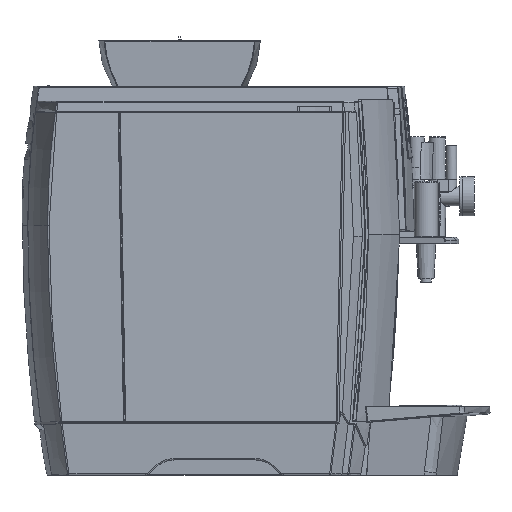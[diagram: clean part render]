
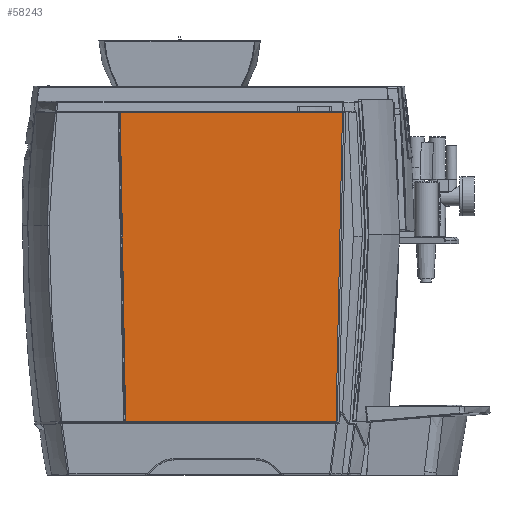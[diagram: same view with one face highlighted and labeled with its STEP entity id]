
A CAD part, left-side view. The second image highlights one B-rep face of the part: STEP entity #58243.
In plain terms, the highlighted planar face has unit normal (-1, 0, 0).
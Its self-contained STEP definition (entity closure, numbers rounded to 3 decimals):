
#3451 = ORIENTED_EDGE ( 'NONE', *, *, #83650, .F. ) ;
#6180 = EDGE_CURVE ( 'NONE', #36439, #9338, #81594, .T. ) ;
#7557 = CARTESIAN_POINT ( 'NONE',  ( -155., 213.752, 22.5 ) ) ;
#8318 = CARTESIAN_POINT ( 'NONE',  ( -155., 15.79, 22.5 ) ) ;
#9192 = EDGE_CURVE ( 'NONE', #53654, #80042, #80985, .T. ) ;
#9338 = VERTEX_POINT ( 'NONE', #26732 ) ;
#9915 = DIRECTION ( 'NONE',  ( 0., -1., 0. ) ) ;
#9946 = CARTESIAN_POINT ( 'NONE',  ( -155., 15.161, 22.7 ) ) ;
#11711 = VECTOR ( 'NONE', #9915, 1000. ) ;
#12501 = CARTESIAN_POINT ( 'NONE',  ( -155., 213.97, 22.643 ) ) ;
#16603 = CARTESIAN_POINT ( 'NONE',  ( -155., 13.13, 120.134 ) ) ;
#21784 = CARTESIAN_POINT ( 'NONE',  ( -155., 15.402, 22.582 ) ) ;
#21831 = FACE_OUTER_BOUND ( 'NONE', #54501, .T. ) ;
#23480 = ORIENTED_EDGE ( 'NONE', *, *, #62370, .T. ) ;
#25404 = DIRECTION ( 'NONE',  ( 0., 1., 0. ) ) ;
#26732 = CARTESIAN_POINT ( 'NONE',  ( -155., 9.068, 315. ) ) ;
#27746 = CARTESIAN_POINT ( 'NONE',  ( -155., 213.97, 22.643 ) ) ;
#28528 = CARTESIAN_POINT ( 'NONE',  ( -155., 15.161, 22.7 ) ) ;
#30078 = CARTESIAN_POINT ( 'NONE',  ( -155., 9.068, 315. ) ) ;
#32706 = ORIENTED_EDGE ( 'NONE', *, *, #6180, .T. ) ;
#33772 = VECTOR ( 'NONE', #25404, 1000. ) ;
#35019 = VECTOR ( 'NONE', #41846, 1000. ) ;
#36439 = VERTEX_POINT ( 'NONE', #9946 ) ;
#38913 = ORIENTED_EDGE ( 'NONE', *, *, #51081, .F. ) ;
#41548 = CARTESIAN_POINT ( 'NONE',  ( -155., 214.119, 22.991 ) ) ;
#41846 = DIRECTION ( 'NONE',  ( 0., 0.017, 1. ) ) ;
#41925 =( BOUNDED_CURVE ( )  B_SPLINE_CURVE ( 3, ( #47601, #7557, #67619, #27746 ),
 .UNSPECIFIED., .F., .F. ) 
 B_SPLINE_CURVE_WITH_KNOTS ( ( 4, 4 ),
 ( 0., 1. ),
 .UNSPECIFIED. ) 
 CURVE ( )  GEOMETRIC_REPRESENTATION_ITEM ( )  RATIONAL_B_SPLINE_CURVE ( ( 1., 0.95, 0.95, 1. ) ) 
 REPRESENTATION_ITEM ( '' )  );
#42545 = EDGE_CURVE ( 'NONE', #80042, #55559, #52781, .T. ) ;
#44682 = PLANE ( 'NONE',  #45986 ) ;
#45986 = AXIS2_PLACEMENT_3D ( 'NONE', #65049, #64760, #71744 ) ;
#47601 = CARTESIAN_POINT ( 'NONE',  ( -155., 213.62, 22.5 ) ) ;
#49520 = EDGE_CURVE ( 'NONE', #76241, #66142, #69228, .T. ) ;
#49936 = CARTESIAN_POINT ( 'NONE',  ( -155., 15.161, 22.7 ) ) ;
#49957 = CARTESIAN_POINT ( 'NONE',  ( -155., 265.363, 315. ) ) ;
#51081 = EDGE_CURVE ( 'NONE', #55559, #9338, #60782, .T. ) ;
#51429 = ORIENTED_EDGE ( 'NONE', *, *, #42545, .F. ) ;
#52781 = LINE ( 'NONE', #41548, #35019 ) ;
#53654 = VERTEX_POINT ( 'NONE', #12501 ) ;
#54501 = EDGE_LOOP ( 'NONE', ( #75536, #23480, #32706, #38913, #51429, #59737, #3451 ) ) ;
#55559 = VERTEX_POINT ( 'NONE', #66216 ) ;
#56595 = CARTESIAN_POINT ( 'NONE',  ( -155., 11.099, 217.567 ) ) ;
#58243 = ADVANCED_FACE ( 'NONE', ( #21831 ), #44682, .F. ) ;
#59737 = ORIENTED_EDGE ( 'NONE', *, *, #9192, .F. ) ;
#60782 = LINE ( 'NONE', #49957, #11711 ) ;
#61709 = CARTESIAN_POINT ( 'NONE',  ( -155., 15.659, 22.516 ) ) ;
#62370 = EDGE_CURVE ( 'NONE', #76241, #36439, #84417, .T. ) ;
#63772 = CARTESIAN_POINT ( 'NONE',  ( -155., 214.117, 22.858 ) ) ;
#64760 = DIRECTION ( 'NONE',  ( 1., 0., 0. ) ) ;
#65049 = CARTESIAN_POINT ( 'NONE',  ( -155., 92.508, 116.109 ) ) ;
#66142 = VERTEX_POINT ( 'NONE', #81277 ) ;
#66216 = CARTESIAN_POINT ( 'NONE',  ( -155., 219.217, 315. ) ) ;
#67619 = CARTESIAN_POINT ( 'NONE',  ( -155., 213.875, 22.55 ) ) ;
#68111 = CARTESIAN_POINT ( 'NONE',  ( -155., 15.924, 22.5 ) ) ;
#68401 = CARTESIAN_POINT ( 'NONE',  ( -155., 15.277, 22.632 ) ) ;
#69228 = LINE ( 'NONE', #71997, #33772 ) ;
#70180 = CARTESIAN_POINT ( 'NONE',  ( -155., 214.065, 22.736 ) ) ;
#70461 = CARTESIAN_POINT ( 'NONE',  ( -155., 213.97, 22.643 ) ) ;
#71744 = DIRECTION ( 'NONE',  ( 0., 1., 0. ) ) ;
#71997 = CARTESIAN_POINT ( 'NONE',  ( -155., 92.508, 22.5 ) ) ;
#75536 = ORIENTED_EDGE ( 'NONE', *, *, #49520, .F. ) ;
#76241 = VERTEX_POINT ( 'NONE', #83878 ) ;
#77177 = CARTESIAN_POINT ( 'NONE',  ( -155., 214.119, 22.991 ) ) ;
#77404 = CARTESIAN_POINT ( 'NONE',  ( -155., 214.119, 22.991 ) ) ;
#80042 = VERTEX_POINT ( 'NONE', #77404 ) ;
#80985 =( BOUNDED_CURVE ( )  B_SPLINE_CURVE ( 3, ( #70461, #70180, #63772, #77177 ),
 .UNSPECIFIED., .F., .F. ) 
 B_SPLINE_CURVE_WITH_KNOTS ( ( 4, 4 ),
 ( 0., 1. ),
 .UNSPECIFIED. ) 
 CURVE ( )  GEOMETRIC_REPRESENTATION_ITEM ( )  RATIONAL_B_SPLINE_CURVE ( ( 1., 0.95, 0.95, 1. ) ) 
 REPRESENTATION_ITEM ( '' )  );
#81277 = CARTESIAN_POINT ( 'NONE',  ( -155., 213.62, 22.5 ) ) ;
#81594 = B_SPLINE_CURVE_WITH_KNOTS ( 'NONE', 3,
 ( #49936, #16603, #56595, #30078 ),
 .UNSPECIFIED., .F., .F.,
 ( 4, 4 ),
 ( 0., 0.293 ),
 .UNSPECIFIED. ) ;
#83650 = EDGE_CURVE ( 'NONE', #66142, #53654, #41925, .T. ) ;
#83878 = CARTESIAN_POINT ( 'NONE',  ( -155., 15.924, 22.5 ) ) ;
#84417 = B_SPLINE_CURVE_WITH_KNOTS ( 'NONE', 3,
 ( #68111, #8318, #61709, #21784, #68401, #28528 ),
 .UNSPECIFIED., .F., .F.,
 ( 4, 2, 4 ),
 ( 0., 0., 0.001 ),
 .UNSPECIFIED. ) ;
